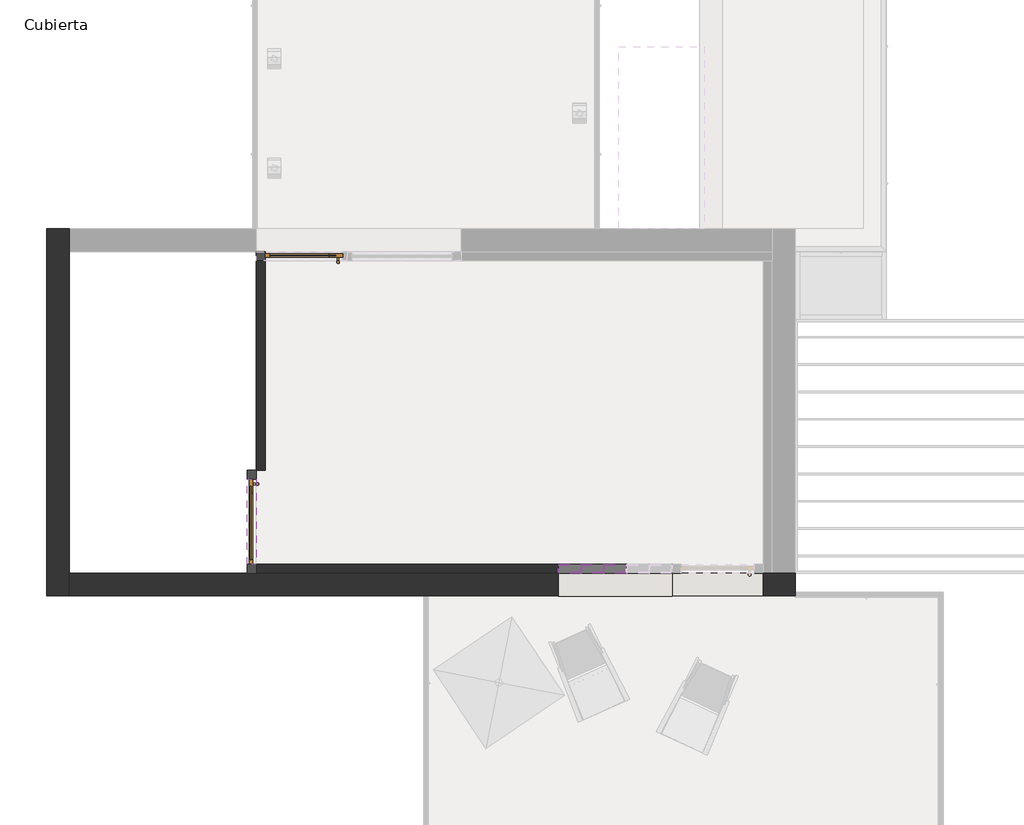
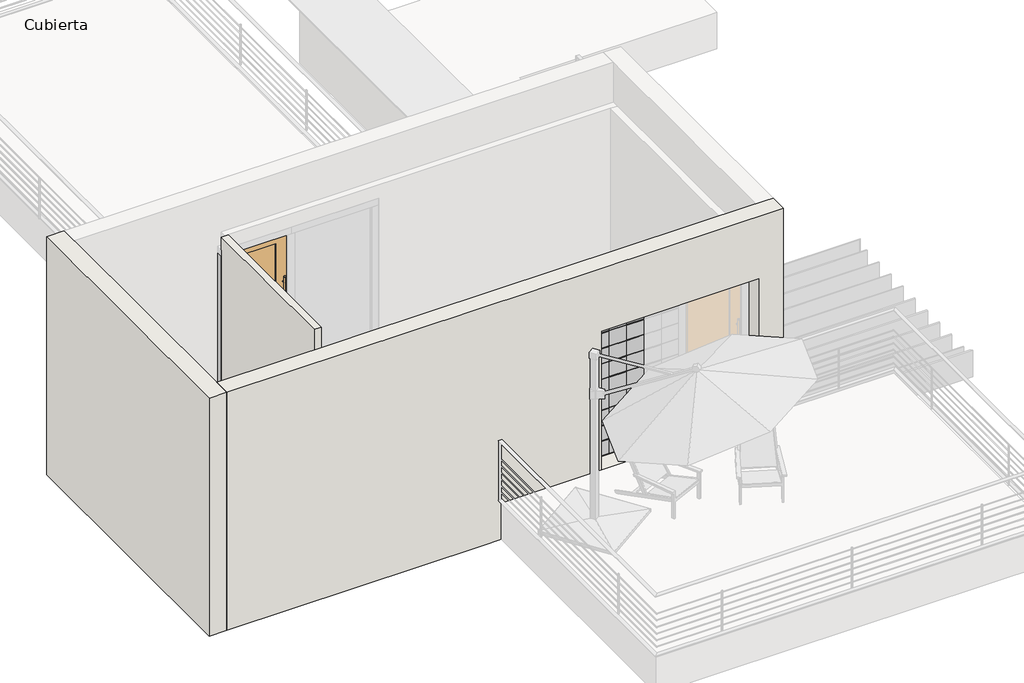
# One storey, part 1 of 3: 60 members, 27 plates, 4 walls, 2 doors.
"""IFC4 building model written with IfcOpenShell, lengths in millimetres."""

from ifc_helpers import new_model, si_unit, frame, origin, place, context, project, spatial, polyline, outline, extrude, faceted_brep, transform, mapped, element, save
from components import sgl_glass_1_sgl_glass_1_9855223e, sgl_glass_1_sgl_glass_1_6551031a, montante_rectangular_21ec1a72, montante_rectangular_2e25ec90, montante_rectangular_0f009ab3, montante_rectangular_e8e7f79d, montante_rectangular_223da8a3, montante_rectangular_ca48c89f, montante_rectangular_3748f694, montante_rectangular_44f377e7, montante_rectangular_montante_rectangular_10_x_10_cm_a0c0aff6, montante_rectangular_montante_rectangular_10_x_10_cm_1208ad8d, montante_rectangular_montante_rectangular_10_x_10_cm_fbaa0f1d, montante_rectangular_montante_rectangular_10_x_10_cm_fe9afc94, panel_de_sistema_efafee70, panel_de_sistema_3b4a4584, panel_de_sistema_f5b48c68, panel_de_sistema_02896438

model = new_model("IFC4")

# Units and contexts
model_context = context("Model", 3, world=origin())
ifc_project = project(units=[si_unit("LENGTHUNIT", "METRE", prefix="MILLI")], contexts=[model_context])

# Site, building, storey
site = spatial("IfcSite", under=ifc_project)
building = spatial("IfcBuilding", under=site)
storey = spatial("IfcBuildingStorey", under=building, Name="Cubierta", Elevation=6000.0)

# Doors
placement = place(None, origin())
sgl_glass_1_sgl_glass_1_shape = sgl_glass_1_sgl_glass_1_9855223e(model_context)
element("IfcDoor", 1, ObjectType="Sgl Glass (1) : Sgl Glass (1)", at=placement, inside=storey, context=model_context, shape_type="MappedRepresentation", body=[
    mapped(sgl_glass_1_sgl_glass_1_shape, transform((-4031.0601801, -7477.6669037, 6100.0), x_axis=(0.0, -1.0, 0.0), y_axis=(1.0, 0.0, 0.0), z_axis=(0.0, 0.0, 1.0))),
])
sgl_glass_1_sgl_glass_1_2_shape = sgl_glass_1_sgl_glass_1_6551031a(model_context)
element("IfcDoor", 2, ObjectType="Sgl Glass (1) : Sgl Glass (1)", at=placement, inside=storey, context=model_context, shape_type="MappedRepresentation", body=[
    mapped(sgl_glass_1_sgl_glass_1_2_shape, transform((-3456.0601801, -4562.6669037, 6250.0), x_axis=(-1.0, 0.0, 0.0), y_axis=(0.0, -1.0, 0.0), z_axis=(0.0, 0.0, 1.0))),
])

# Members
montante_rectangular_shape = montante_rectangular_21ec1a72(model_context)
element("IfcMember", 3, ObjectType="Montante rectangular : Junta de paves", at=placement, inside=storey, context=model_context, shape_type="MappedRepresentation", body=[
    mapped(montante_rectangular_shape, transform((-654.4649042, -7992.6669037, 8350.0), x_axis=(0.0, 0.0, 1.0), y_axis=(0.0, 1.0, 0.0), z_axis=(-1.0, 0.0, 0.0))),
])
montante_rectangular_2_shape = montante_rectangular_2e25ec90(model_context)
element("IfcMember", 4, ObjectType="Montante rectangular : Junta de paves", at=placement, inside=storey, context=model_context, shape_type="MappedRepresentation", body=[
    mapped(montante_rectangular_2_shape, transform((-419.4649042, -7992.6669037, 6250.0), x_axis=(0.0, 0.0, -1.0), y_axis=(0.0, 1.0, 0.0), z_axis=(1.0, 0.0, 0.0))),
])
montante_rectangular_3_shape = montante_rectangular_0f009ab3(model_context)
element("IfcMember", 5, ObjectType="Montante rectangular : Junta de paves", at=placement, inside=storey, context=model_context, shape_type="MappedRepresentation", body=[
    mapped(montante_rectangular_3_shape, transform((-654.4649042, -7992.6669037, 6483.3333333), x_axis=(0.0, 0.0, 1.0), y_axis=(0.0, 1.0, 0.0), z_axis=(-1.0, 0.0, 0.0))),
])
element("IfcMember", 6, ObjectType="Montante rectangular : Junta de paves", at=placement, inside=storey, context=model_context, shape_type="MappedRepresentation", body=[
    mapped(montante_rectangular_3_shape, transform((-654.4649042, -7992.6669037, 6716.6666667), x_axis=(0.0, 0.0, 1.0), y_axis=(0.0, 1.0, 0.0), z_axis=(-1.0, 0.0, 0.0))),
])
element("IfcMember", 7, ObjectType="Montante rectangular : Junta de paves", at=placement, inside=storey, context=model_context, shape_type="MappedRepresentation", body=[
    mapped(montante_rectangular_3_shape, transform((-654.4649042, -7992.6669037, 6950.0), x_axis=(0.0, 0.0, 1.0), y_axis=(0.0, 1.0, 0.0), z_axis=(-1.0, 0.0, 0.0))),
])
element("IfcMember", 8, ObjectType="Montante rectangular : Junta de paves", at=placement, inside=storey, context=model_context, shape_type="MappedRepresentation", body=[
    mapped(montante_rectangular_3_shape, transform((-654.4649042, -7992.6669037, 7183.3333333), x_axis=(0.0, 0.0, 1.0), y_axis=(0.0, 1.0, 0.0), z_axis=(-1.0, 0.0, 0.0))),
])
element("IfcMember", 9, ObjectType="Montante rectangular : Junta de paves", at=placement, inside=storey, context=model_context, shape_type="MappedRepresentation", body=[
    mapped(montante_rectangular_3_shape, transform((-654.4649042, -7992.6669037, 7416.6666667), x_axis=(0.0, 0.0, 1.0), y_axis=(0.0, 1.0, 0.0), z_axis=(-1.0, 0.0, 0.0))),
])
element("IfcMember", 10, ObjectType="Montante rectangular : Junta de paves", at=placement, inside=storey, context=model_context, shape_type="MappedRepresentation", body=[
    mapped(montante_rectangular_3_shape, transform((-654.4649042, -7992.6669037, 7650.0), x_axis=(0.0, 0.0, 1.0), y_axis=(0.0, 1.0, 0.0), z_axis=(-1.0, 0.0, 0.0))),
])
element("IfcMember", 11, ObjectType="Montante rectangular : Junta de paves", at=placement, inside=storey, context=model_context, shape_type="MappedRepresentation", body=[
    mapped(montante_rectangular_3_shape, transform((-654.4649042, -7992.6669037, 7883.3333333), x_axis=(0.0, 0.0, 1.0), y_axis=(0.0, 1.0, 0.0), z_axis=(-1.0, 0.0, 0.0))),
])
element("IfcMember", 12, ObjectType="Montante rectangular : Junta de paves", at=placement, inside=storey, context=model_context, shape_type="MappedRepresentation", body=[
    mapped(montante_rectangular_3_shape, transform((-654.4649042, -7992.6669037, 8116.6666667), x_axis=(0.0, 0.0, 1.0), y_axis=(0.0, 1.0, 0.0), z_axis=(-1.0, 0.0, 0.0))),
])
montante_rectangular_4_shape = montante_rectangular_e8e7f79d(model_context)
element("IfcMember", 13, ObjectType="Montante rectangular : Junta de paves", at=placement, inside=storey, context=model_context, shape_type="MappedRepresentation", body=[
    mapped(montante_rectangular_4_shape, transform((-169.4649042, -7992.6669037, 6250.0), x_axis=(0.0, 0.0, -1.0), y_axis=(0.0, 1.0, 0.0), z_axis=(1.0, 0.0, 0.0))),
])
montante_rectangular_5_shape = montante_rectangular_223da8a3(model_context)
element("IfcMember", 14, ObjectType="Montante rectangular : Junta de paves", at=placement, inside=storey, context=model_context, shape_type="MappedRepresentation", body=[
    mapped(montante_rectangular_5_shape, transform((-159.4649042, -7992.6669037, 6483.3333333), x_axis=(0.0, 0.0, 1.0), y_axis=(0.0, 1.0, 0.0), z_axis=(-1.0, 0.0, 0.0))),
])
element("IfcMember", 15, ObjectType="Montante rectangular : Junta de paves", at=placement, inside=storey, context=model_context, shape_type="MappedRepresentation", body=[
    mapped(montante_rectangular_5_shape, transform((-409.4649042, -7992.6669037, 6483.3333333), x_axis=(0.0, 0.0, 1.0), y_axis=(0.0, 1.0, 0.0), z_axis=(-1.0, 0.0, 0.0))),
])
element("IfcMember", 16, ObjectType="Montante rectangular : Junta de paves", at=placement, inside=storey, context=model_context, shape_type="MappedRepresentation", body=[
    mapped(montante_rectangular_5_shape, transform((-159.4649042, -7992.6669037, 6716.6666667), x_axis=(0.0, 0.0, 1.0), y_axis=(0.0, 1.0, 0.0), z_axis=(-1.0, 0.0, 0.0))),
])
element("IfcMember", 17, ObjectType="Montante rectangular : Junta de paves", at=placement, inside=storey, context=model_context, shape_type="MappedRepresentation", body=[
    mapped(montante_rectangular_5_shape, transform((-409.4649042, -7992.6669037, 6716.6666667), x_axis=(0.0, 0.0, 1.0), y_axis=(0.0, 1.0, 0.0), z_axis=(-1.0, 0.0, 0.0))),
])
element("IfcMember", 18, ObjectType="Montante rectangular : Junta de paves", at=placement, inside=storey, context=model_context, shape_type="MappedRepresentation", body=[
    mapped(montante_rectangular_5_shape, transform((-159.4649042, -7992.6669037, 6950.0), x_axis=(0.0, 0.0, 1.0), y_axis=(0.0, 1.0, 0.0), z_axis=(-1.0, 0.0, 0.0))),
])
element("IfcMember", 19, ObjectType="Montante rectangular : Junta de paves", at=placement, inside=storey, context=model_context, shape_type="MappedRepresentation", body=[
    mapped(montante_rectangular_5_shape, transform((-409.4649042, -7992.6669037, 6950.0), x_axis=(0.0, 0.0, 1.0), y_axis=(0.0, 1.0, 0.0), z_axis=(-1.0, 0.0, 0.0))),
])
element("IfcMember", 20, ObjectType="Montante rectangular : Junta de paves", at=placement, inside=storey, context=model_context, shape_type="MappedRepresentation", body=[
    mapped(montante_rectangular_5_shape, transform((-159.4649042, -7992.6669037, 7183.3333333), x_axis=(0.0, 0.0, 1.0), y_axis=(0.0, 1.0, 0.0), z_axis=(-1.0, 0.0, 0.0))),
])
element("IfcMember", 21, ObjectType="Montante rectangular : Junta de paves", at=placement, inside=storey, context=model_context, shape_type="MappedRepresentation", body=[
    mapped(montante_rectangular_5_shape, transform((-409.4649042, -7992.6669037, 7183.3333333), x_axis=(0.0, 0.0, 1.0), y_axis=(0.0, 1.0, 0.0), z_axis=(-1.0, 0.0, 0.0))),
])
element("IfcMember", 22, ObjectType="Montante rectangular : Junta de paves", at=placement, inside=storey, context=model_context, shape_type="MappedRepresentation", body=[
    mapped(montante_rectangular_5_shape, transform((-159.4649042, -7992.6669037, 7416.6666667), x_axis=(0.0, 0.0, 1.0), y_axis=(0.0, 1.0, 0.0), z_axis=(-1.0, 0.0, 0.0))),
])
element("IfcMember", 23, ObjectType="Montante rectangular : Junta de paves", at=placement, inside=storey, context=model_context, shape_type="MappedRepresentation", body=[
    mapped(montante_rectangular_5_shape, transform((-409.4649042, -7992.6669037, 7416.6666667), x_axis=(0.0, 0.0, 1.0), y_axis=(0.0, 1.0, 0.0), z_axis=(-1.0, 0.0, 0.0))),
])
element("IfcMember", 24, ObjectType="Montante rectangular : Junta de paves", at=placement, inside=storey, context=model_context, shape_type="MappedRepresentation", body=[
    mapped(montante_rectangular_5_shape, transform((-159.4649042, -7992.6669037, 7650.0), x_axis=(0.0, 0.0, 1.0), y_axis=(0.0, 1.0, 0.0), z_axis=(-1.0, 0.0, 0.0))),
])
element("IfcMember", 25, ObjectType="Montante rectangular : Junta de paves", at=placement, inside=storey, context=model_context, shape_type="MappedRepresentation", body=[
    mapped(montante_rectangular_5_shape, transform((-409.4649042, -7992.6669037, 7650.0), x_axis=(0.0, 0.0, 1.0), y_axis=(0.0, 1.0, 0.0), z_axis=(-1.0, 0.0, 0.0))),
])
element("IfcMember", 26, ObjectType="Montante rectangular : Junta de paves", at=placement, inside=storey, context=model_context, shape_type="MappedRepresentation", body=[
    mapped(montante_rectangular_5_shape, transform((-159.4649042, -7992.6669037, 7883.3333333), x_axis=(0.0, 0.0, 1.0), y_axis=(0.0, 1.0, 0.0), z_axis=(-1.0, 0.0, 0.0))),
])
element("IfcMember", 27, ObjectType="Montante rectangular : Junta de paves", at=placement, inside=storey, context=model_context, shape_type="MappedRepresentation", body=[
    mapped(montante_rectangular_5_shape, transform((-409.4649042, -7992.6669037, 7883.3333333), x_axis=(0.0, 0.0, 1.0), y_axis=(0.0, 1.0, 0.0), z_axis=(-1.0, 0.0, 0.0))),
])
element("IfcMember", 28, ObjectType="Montante rectangular : Junta de paves", at=placement, inside=storey, context=model_context, shape_type="MappedRepresentation", body=[
    mapped(montante_rectangular_5_shape, transform((-159.4649042, -7992.6669037, 8116.6666667), x_axis=(0.0, 0.0, 1.0), y_axis=(0.0, 1.0, 0.0), z_axis=(-1.0, 0.0, 0.0))),
])
element("IfcMember", 29, ObjectType="Montante rectangular : Junta de paves", at=placement, inside=storey, context=model_context, shape_type="MappedRepresentation", body=[
    mapped(montante_rectangular_5_shape, transform((-409.4649042, -7992.6669037, 8116.6666667), x_axis=(0.0, 0.0, 1.0), y_axis=(0.0, 1.0, 0.0), z_axis=(-1.0, 0.0, 0.0))),
])
montante_rectangular_6_shape = montante_rectangular_ca48c89f(model_context)
element("IfcMember", 30, ObjectType="Montante rectangular : Junta de paves", at=placement, inside=storey, context=model_context, shape_type="MappedRepresentation", body=[
    mapped(montante_rectangular_6_shape, transform((-159.4649042, -7992.6669037, 8350.0), x_axis=(0.0, 0.0, 1.0), y_axis=(0.0, 1.0, 0.0), z_axis=(-1.0, 0.0, 0.0))),
])
element("IfcMember", 31, ObjectType="Montante rectangular : Junta de paves", at=placement, inside=storey, context=model_context, shape_type="MappedRepresentation", body=[
    mapped(montante_rectangular_6_shape, transform((-409.4649042, -7992.6669037, 8350.0), x_axis=(0.0, 0.0, 1.0), y_axis=(0.0, 1.0, 0.0), z_axis=(-1.0, 0.0, 0.0))),
])
montante_rectangular_7_shape = montante_rectangular_3748f694(model_context)
element("IfcMember", 32, ObjectType="Montante rectangular : Junta de paves", at=placement, inside=storey, context=model_context, shape_type="MappedRepresentation", body=[
    mapped(montante_rectangular_7_shape, transform((-164.4649042, -7992.6669037, 6250.0), x_axis=(-1.0, 0.0, 0.0), y_axis=(0.0, 1.0, 0.0), z_axis=(0.0, 0.0, -1.0))),
])
element("IfcMember", 33, ObjectType="Montante rectangular : Junta de paves", at=placement, inside=storey, context=model_context, shape_type="MappedRepresentation", body=[
    mapped(montante_rectangular_7_shape, transform((-414.4649042, -7992.6669037, 6250.0), x_axis=(-1.0, 0.0, 0.0), y_axis=(0.0, 1.0, 0.0), z_axis=(0.0, 0.0, -1.0))),
])
element("IfcMember", 34, ObjectType="Montante rectangular : Junta de paves", at=placement, inside=storey, context=model_context, shape_type="MappedRepresentation", body=[
    mapped(montante_rectangular_7_shape, transform((-164.4649042, -7992.6669037, 6483.3333333), x_axis=(-1.0, 0.0, 0.0), y_axis=(0.0, 1.0, 0.0), z_axis=(0.0, 0.0, -1.0))),
])
element("IfcMember", 35, ObjectType="Montante rectangular : Junta de paves", at=placement, inside=storey, context=model_context, shape_type="MappedRepresentation", body=[
    mapped(montante_rectangular_7_shape, transform((-414.4649042, -7992.6669037, 6483.3333333), x_axis=(-1.0, 0.0, 0.0), y_axis=(0.0, 1.0, 0.0), z_axis=(0.0, 0.0, -1.0))),
])
element("IfcMember", 36, ObjectType="Montante rectangular : Junta de paves", at=placement, inside=storey, context=model_context, shape_type="MappedRepresentation", body=[
    mapped(montante_rectangular_7_shape, transform((-164.4649042, -7992.6669037, 6716.6666667), x_axis=(-1.0, 0.0, 0.0), y_axis=(0.0, 1.0, 0.0), z_axis=(0.0, 0.0, -1.0))),
])
element("IfcMember", 37, ObjectType="Montante rectangular : Junta de paves", at=placement, inside=storey, context=model_context, shape_type="MappedRepresentation", body=[
    mapped(montante_rectangular_7_shape, transform((-414.4649042, -7992.6669037, 6716.6666667), x_axis=(-1.0, 0.0, 0.0), y_axis=(0.0, 1.0, 0.0), z_axis=(0.0, 0.0, -1.0))),
])
element("IfcMember", 38, ObjectType="Montante rectangular : Junta de paves", at=placement, inside=storey, context=model_context, shape_type="MappedRepresentation", body=[
    mapped(montante_rectangular_7_shape, transform((-164.4649042, -7992.6669037, 6950.0), x_axis=(-1.0, 0.0, 0.0), y_axis=(0.0, 1.0, 0.0), z_axis=(0.0, 0.0, -1.0))),
])
element("IfcMember", 39, ObjectType="Montante rectangular : Junta de paves", at=placement, inside=storey, context=model_context, shape_type="MappedRepresentation", body=[
    mapped(montante_rectangular_7_shape, transform((-414.4649042, -7992.6669037, 6950.0), x_axis=(-1.0, 0.0, 0.0), y_axis=(0.0, 1.0, 0.0), z_axis=(0.0, 0.0, -1.0))),
])
element("IfcMember", 40, ObjectType="Montante rectangular : Junta de paves", at=placement, inside=storey, context=model_context, shape_type="MappedRepresentation", body=[
    mapped(montante_rectangular_7_shape, transform((-164.4649042, -7992.6669037, 7183.3333333), x_axis=(-1.0, 0.0, 0.0), y_axis=(0.0, 1.0, 0.0), z_axis=(0.0, 0.0, -1.0))),
])
element("IfcMember", 41, ObjectType="Montante rectangular : Junta de paves", at=placement, inside=storey, context=model_context, shape_type="MappedRepresentation", body=[
    mapped(montante_rectangular_7_shape, transform((-414.4649042, -7992.6669037, 7183.3333333), x_axis=(-1.0, 0.0, 0.0), y_axis=(0.0, 1.0, 0.0), z_axis=(0.0, 0.0, -1.0))),
])
element("IfcMember", 42, ObjectType="Montante rectangular : Junta de paves", at=placement, inside=storey, context=model_context, shape_type="MappedRepresentation", body=[
    mapped(montante_rectangular_7_shape, transform((-164.4649042, -7992.6669037, 7416.6666667), x_axis=(-1.0, 0.0, 0.0), y_axis=(0.0, 1.0, 0.0), z_axis=(0.0, 0.0, -1.0))),
])
element("IfcMember", 43, ObjectType="Montante rectangular : Junta de paves", at=placement, inside=storey, context=model_context, shape_type="MappedRepresentation", body=[
    mapped(montante_rectangular_7_shape, transform((-414.4649042, -7992.6669037, 7416.6666667), x_axis=(-1.0, 0.0, 0.0), y_axis=(0.0, 1.0, 0.0), z_axis=(0.0, 0.0, -1.0))),
])
element("IfcMember", 44, ObjectType="Montante rectangular : Junta de paves", at=placement, inside=storey, context=model_context, shape_type="MappedRepresentation", body=[
    mapped(montante_rectangular_7_shape, transform((-164.4649042, -7992.6669037, 7650.0), x_axis=(-1.0, 0.0, 0.0), y_axis=(0.0, 1.0, 0.0), z_axis=(0.0, 0.0, -1.0))),
])
element("IfcMember", 45, ObjectType="Montante rectangular : Junta de paves", at=placement, inside=storey, context=model_context, shape_type="MappedRepresentation", body=[
    mapped(montante_rectangular_7_shape, transform((-414.4649042, -7992.6669037, 7650.0), x_axis=(-1.0, 0.0, 0.0), y_axis=(0.0, 1.0, 0.0), z_axis=(0.0, 0.0, -1.0))),
])
element("IfcMember", 46, ObjectType="Montante rectangular : Junta de paves", at=placement, inside=storey, context=model_context, shape_type="MappedRepresentation", body=[
    mapped(montante_rectangular_7_shape, transform((-164.4649042, -7992.6669037, 7883.3333333), x_axis=(-1.0, 0.0, 0.0), y_axis=(0.0, 1.0, 0.0), z_axis=(0.0, 0.0, -1.0))),
])
element("IfcMember", 47, ObjectType="Montante rectangular : Junta de paves", at=placement, inside=storey, context=model_context, shape_type="MappedRepresentation", body=[
    mapped(montante_rectangular_7_shape, transform((-414.4649042, -7992.6669037, 7883.3333333), x_axis=(-1.0, 0.0, 0.0), y_axis=(0.0, 1.0, 0.0), z_axis=(0.0, 0.0, -1.0))),
])
element("IfcMember", 48, ObjectType="Montante rectangular : Junta de paves", at=placement, inside=storey, context=model_context, shape_type="MappedRepresentation", body=[
    mapped(montante_rectangular_7_shape, transform((-164.4649042, -7992.6669037, 8116.6666667), x_axis=(-1.0, 0.0, 0.0), y_axis=(0.0, 1.0, 0.0), z_axis=(0.0, 0.0, -1.0))),
])
element("IfcMember", 49, ObjectType="Montante rectangular : Junta de paves", at=placement, inside=storey, context=model_context, shape_type="MappedRepresentation", body=[
    mapped(montante_rectangular_7_shape, transform((-414.4649042, -7992.6669037, 8116.6666667), x_axis=(-1.0, 0.0, 0.0), y_axis=(0.0, 1.0, 0.0), z_axis=(0.0, 0.0, -1.0))),
])
montante_rectangular_8_shape = montante_rectangular_44f377e7(model_context)
element("IfcMember", 50, ObjectType="Montante rectangular : Junta de paves", at=placement, inside=storey, context=model_context, shape_type="MappedRepresentation", body=[
    mapped(montante_rectangular_8_shape, transform((-664.4649042, -7992.6669037, 6250.0), x_axis=(-1.0, 0.0, 0.0), y_axis=(0.0, 1.0, 0.0), z_axis=(0.0, 0.0, -1.0))),
])
element("IfcMember", 51, ObjectType="Montante rectangular : Junta de paves", at=placement, inside=storey, context=model_context, shape_type="MappedRepresentation", body=[
    mapped(montante_rectangular_8_shape, transform((-664.4649042, -7992.6669037, 6483.3333333), x_axis=(-1.0, 0.0, 0.0), y_axis=(0.0, 1.0, 0.0), z_axis=(0.0, 0.0, -1.0))),
])
element("IfcMember", 52, ObjectType="Montante rectangular : Junta de paves", at=placement, inside=storey, context=model_context, shape_type="MappedRepresentation", body=[
    mapped(montante_rectangular_8_shape, transform((-664.4649042, -7992.6669037, 6716.6666667), x_axis=(-1.0, 0.0, 0.0), y_axis=(0.0, 1.0, 0.0), z_axis=(0.0, 0.0, -1.0))),
])
element("IfcMember", 53, ObjectType="Montante rectangular : Junta de paves", at=placement, inside=storey, context=model_context, shape_type="MappedRepresentation", body=[
    mapped(montante_rectangular_8_shape, transform((-664.4649042, -7992.6669037, 6950.0), x_axis=(-1.0, 0.0, 0.0), y_axis=(0.0, 1.0, 0.0), z_axis=(0.0, 0.0, -1.0))),
])
element("IfcMember", 54, ObjectType="Montante rectangular : Junta de paves", at=placement, inside=storey, context=model_context, shape_type="MappedRepresentation", body=[
    mapped(montante_rectangular_8_shape, transform((-664.4649042, -7992.6669037, 7183.3333333), x_axis=(-1.0, 0.0, 0.0), y_axis=(0.0, 1.0, 0.0), z_axis=(0.0, 0.0, -1.0))),
])
element("IfcMember", 55, ObjectType="Montante rectangular : Junta de paves", at=placement, inside=storey, context=model_context, shape_type="MappedRepresentation", body=[
    mapped(montante_rectangular_8_shape, transform((-664.4649042, -7992.6669037, 7416.6666667), x_axis=(-1.0, 0.0, 0.0), y_axis=(0.0, 1.0, 0.0), z_axis=(0.0, 0.0, -1.0))),
])
element("IfcMember", 56, ObjectType="Montante rectangular : Junta de paves", at=placement, inside=storey, context=model_context, shape_type="MappedRepresentation", body=[
    mapped(montante_rectangular_8_shape, transform((-664.4649042, -7992.6669037, 7650.0), x_axis=(-1.0, 0.0, 0.0), y_axis=(0.0, 1.0, 0.0), z_axis=(0.0, 0.0, -1.0))),
])
element("IfcMember", 57, ObjectType="Montante rectangular : Junta de paves", at=placement, inside=storey, context=model_context, shape_type="MappedRepresentation", body=[
    mapped(montante_rectangular_8_shape, transform((-664.4649042, -7992.6669037, 7883.3333333), x_axis=(-1.0, 0.0, 0.0), y_axis=(0.0, 1.0, 0.0), z_axis=(0.0, 0.0, -1.0))),
])
element("IfcMember", 58, ObjectType="Montante rectangular : Junta de paves", at=placement, inside=storey, context=model_context, shape_type="MappedRepresentation", body=[
    mapped(montante_rectangular_8_shape, transform((-664.4649042, -7992.6669037, 8116.6666667), x_axis=(-1.0, 0.0, 0.0), y_axis=(0.0, 1.0, 0.0), z_axis=(0.0, 0.0, -1.0))),
])
montante_rectangular_montante_rectangular_10_x_10_cm_shape = montante_rectangular_montante_rectangular_10_x_10_cm_a0c0aff6(model_context)
element("IfcMember", 59, ObjectType="Montante rectangular : Montante rectangular - 10 x 10 cm", at=placement, inside=storey, context=model_context, shape_type="MappedRepresentation", body=[
    mapped(montante_rectangular_montante_rectangular_10_x_10_cm_shape, transform((-4031.0601801, -7942.6669037, 8350.0), x_axis=(0.0, 0.0, 1.0), y_axis=(-1.0, 0.0, 0.0), z_axis=(0.0, -1.0, 0.0))),
])
montante_rectangular_montante_rectangular_10_x_10_cm_2_shape = montante_rectangular_montante_rectangular_10_x_10_cm_1208ad8d(model_context)
element("IfcMember", 60, ObjectType="Montante rectangular : Montante rectangular - 10 x 10 cm", at=placement, inside=storey, context=model_context, shape_type="MappedRepresentation", body=[
    mapped(montante_rectangular_montante_rectangular_10_x_10_cm_2_shape, transform((-4031.0601801, -8042.6669037, 6100.0), x_axis=(0.0, -1.0, 0.0), y_axis=(-1.0, 0.0, 0.0), z_axis=(0.0, 0.0, -1.0))),
])
montante_rectangular_montante_rectangular_10_x_10_cm_3_shape = montante_rectangular_montante_rectangular_10_x_10_cm_fbaa0f1d(model_context)
element("IfcMember", 61, ObjectType="Montante rectangular : Montante rectangular - 10 x 10 cm", at=placement, inside=storey, context=model_context, shape_type="MappedRepresentation", body=[
    mapped(montante_rectangular_montante_rectangular_10_x_10_cm_3_shape, transform((-4031.0601801, -6912.6669037, 8350.0), x_axis=(0.0, 1.0, 0.0), y_axis=(-1.0, 0.0, 0.0), z_axis=(0.0, 0.0, 1.0))),
])
montante_rectangular_montante_rectangular_10_x_10_cm_4_shape = montante_rectangular_montante_rectangular_10_x_10_cm_fe9afc94(model_context)
element("IfcMember", 62, ObjectType="Montante rectangular : Montante rectangular - 10 x 10 cm", at=placement, inside=storey, context=model_context, shape_type="MappedRepresentation", body=[
    mapped(montante_rectangular_montante_rectangular_10_x_10_cm_4_shape, transform((-3981.0601801, -4562.6669037, 8400.0), x_axis=(-1.0, 0.0, 0.0), y_axis=(0.0, -1.0, 0.0), z_axis=(0.0, 0.0, 1.0))),
])

# Plates
panel_de_sistema_shape = panel_de_sistema_efafee70(model_context)
element("IfcPlate", 63, ObjectType="Panel de sistema : PAVES", at=placement, inside=storey, context=model_context, shape_type="MappedRepresentation", body=[
    mapped(panel_de_sistema_shape, transform((-536.9649042, -7992.6669037, 6260.0), x_axis=(-1.0, 0.0, 0.0), y_axis=(0.0, -1.0, 0.0), z_axis=(0.0, 0.0, 1.0))),
])
element("IfcPlate", 64, ObjectType="Panel de sistema : PAVES", at=placement, inside=storey, context=model_context, shape_type="MappedRepresentation", body=[
    mapped(panel_de_sistema_shape, transform((-536.9649042, -7992.6669037, 8121.6666667), x_axis=(-1.0, 0.0, 0.0), y_axis=(0.0, -1.0, 0.0), z_axis=(0.0, 0.0, 1.0))),
])
panel_de_sistema_2_shape = panel_de_sistema_3b4a4584(model_context)
element("IfcPlate", 65, ObjectType="Panel de sistema : PAVES", at=placement, inside=storey, context=model_context, shape_type="MappedRepresentation", body=[
    mapped(panel_de_sistema_2_shape, transform((-39.4649042, -7992.6669037, 6260.0), x_axis=(-1.0, 0.0, 0.0), y_axis=(0.0, -1.0, 0.0), z_axis=(0.0, 0.0, 1.0))),
])
element("IfcPlate", 66, ObjectType="Panel de sistema : PAVES", at=placement, inside=storey, context=model_context, shape_type="MappedRepresentation", body=[
    mapped(panel_de_sistema_2_shape, transform((-289.4649042, -7992.6669037, 6260.0), x_axis=(-1.0, 0.0, 0.0), y_axis=(0.0, -1.0, 0.0), z_axis=(0.0, 0.0, 1.0))),
])
element("IfcPlate", 67, ObjectType="Panel de sistema : PAVES", at=placement, inside=storey, context=model_context, shape_type="MappedRepresentation", body=[
    mapped(panel_de_sistema_2_shape, transform((-39.4649042, -7992.6669037, 8121.6666667), x_axis=(-1.0, 0.0, 0.0), y_axis=(0.0, -1.0, 0.0), z_axis=(0.0, 0.0, 1.0))),
])
element("IfcPlate", 68, ObjectType="Panel de sistema : PAVES", at=placement, inside=storey, context=model_context, shape_type="MappedRepresentation", body=[
    mapped(panel_de_sistema_2_shape, transform((-289.4649042, -7992.6669037, 8121.6666667), x_axis=(-1.0, 0.0, 0.0), y_axis=(0.0, -1.0, 0.0), z_axis=(0.0, 0.0, 1.0))),
])
panel_de_sistema_3_shape = panel_de_sistema_f5b48c68(model_context)
element("IfcPlate", 69, ObjectType="Panel de sistema : PAVES", at=placement, inside=storey, context=model_context, shape_type="MappedRepresentation", body=[
    mapped(panel_de_sistema_3_shape, transform((-536.9649042, -7992.6669037, 6488.3333333), x_axis=(-1.0, 0.0, 0.0), y_axis=(0.0, -1.0, 0.0), z_axis=(0.0, 0.0, 1.0))),
])
element("IfcPlate", 70, ObjectType="Panel de sistema : PAVES", at=placement, inside=storey, context=model_context, shape_type="MappedRepresentation", body=[
    mapped(panel_de_sistema_3_shape, transform((-536.9649042, -7992.6669037, 6721.6666667), x_axis=(-1.0, 0.0, 0.0), y_axis=(0.0, -1.0, 0.0), z_axis=(0.0, 0.0, 1.0))),
])
element("IfcPlate", 71, ObjectType="Panel de sistema : PAVES", at=placement, inside=storey, context=model_context, shape_type="MappedRepresentation", body=[
    mapped(panel_de_sistema_3_shape, transform((-536.9649042, -7992.6669037, 6955.0), x_axis=(-1.0, 0.0, 0.0), y_axis=(0.0, -1.0, 0.0), z_axis=(0.0, 0.0, 1.0))),
])
element("IfcPlate", 72, ObjectType="Panel de sistema : PAVES", at=placement, inside=storey, context=model_context, shape_type="MappedRepresentation", body=[
    mapped(panel_de_sistema_3_shape, transform((-536.9649042, -7992.6669037, 7188.3333333), x_axis=(-1.0, 0.0, 0.0), y_axis=(0.0, -1.0, 0.0), z_axis=(0.0, 0.0, 1.0))),
])
element("IfcPlate", 73, ObjectType="Panel de sistema : PAVES", at=placement, inside=storey, context=model_context, shape_type="MappedRepresentation", body=[
    mapped(panel_de_sistema_3_shape, transform((-536.9649042, -7992.6669037, 7421.6666667), x_axis=(-1.0, 0.0, 0.0), y_axis=(0.0, -1.0, 0.0), z_axis=(0.0, 0.0, 1.0))),
])
element("IfcPlate", 74, ObjectType="Panel de sistema : PAVES", at=placement, inside=storey, context=model_context, shape_type="MappedRepresentation", body=[
    mapped(panel_de_sistema_3_shape, transform((-536.9649042, -7992.6669037, 7655.0), x_axis=(-1.0, 0.0, 0.0), y_axis=(0.0, -1.0, 0.0), z_axis=(0.0, 0.0, 1.0))),
])
element("IfcPlate", 75, ObjectType="Panel de sistema : PAVES", at=placement, inside=storey, context=model_context, shape_type="MappedRepresentation", body=[
    mapped(panel_de_sistema_3_shape, transform((-536.9649042, -7992.6669037, 7888.3333333), x_axis=(-1.0, 0.0, 0.0), y_axis=(0.0, -1.0, 0.0), z_axis=(0.0, 0.0, 1.0))),
])
panel_de_sistema_4_shape = panel_de_sistema_02896438(model_context)
element("IfcPlate", 76, ObjectType="Panel de sistema : PAVES", at=placement, inside=storey, context=model_context, shape_type="MappedRepresentation", body=[
    mapped(panel_de_sistema_4_shape, transform((-39.4649042, -7992.6669037, 6488.3333333), x_axis=(-1.0, 0.0, 0.0), y_axis=(0.0, -1.0, 0.0), z_axis=(0.0, 0.0, 1.0))),
])
element("IfcPlate", 77, ObjectType="Panel de sistema : PAVES", at=placement, inside=storey, context=model_context, shape_type="MappedRepresentation", body=[
    mapped(panel_de_sistema_4_shape, transform((-289.4649042, -7992.6669037, 6488.3333333), x_axis=(-1.0, 0.0, 0.0), y_axis=(0.0, -1.0, 0.0), z_axis=(0.0, 0.0, 1.0))),
])
element("IfcPlate", 78, ObjectType="Panel de sistema : PAVES", at=placement, inside=storey, context=model_context, shape_type="MappedRepresentation", body=[
    mapped(panel_de_sistema_4_shape, transform((-39.4649042, -7992.6669037, 6721.6666667), x_axis=(-1.0, 0.0, 0.0), y_axis=(0.0, -1.0, 0.0), z_axis=(0.0, 0.0, 1.0))),
])
element("IfcPlate", 79, ObjectType="Panel de sistema : PAVES", at=placement, inside=storey, context=model_context, shape_type="MappedRepresentation", body=[
    mapped(panel_de_sistema_4_shape, transform((-289.4649042, -7992.6669037, 6721.6666667), x_axis=(-1.0, 0.0, 0.0), y_axis=(0.0, -1.0, 0.0), z_axis=(0.0, 0.0, 1.0))),
])
element("IfcPlate", 80, ObjectType="Panel de sistema : PAVES", at=placement, inside=storey, context=model_context, shape_type="MappedRepresentation", body=[
    mapped(panel_de_sistema_4_shape, transform((-39.4649042, -7992.6669037, 6955.0), x_axis=(-1.0, 0.0, 0.0), y_axis=(0.0, -1.0, 0.0), z_axis=(0.0, 0.0, 1.0))),
])
element("IfcPlate", 81, ObjectType="Panel de sistema : PAVES", at=placement, inside=storey, context=model_context, shape_type="MappedRepresentation", body=[
    mapped(panel_de_sistema_4_shape, transform((-289.4649042, -7992.6669037, 6955.0), x_axis=(-1.0, 0.0, 0.0), y_axis=(0.0, -1.0, 0.0), z_axis=(0.0, 0.0, 1.0))),
])
element("IfcPlate", 82, ObjectType="Panel de sistema : PAVES", at=placement, inside=storey, context=model_context, shape_type="MappedRepresentation", body=[
    mapped(panel_de_sistema_4_shape, transform((-39.4649042, -7992.6669037, 7188.3333333), x_axis=(-1.0, 0.0, 0.0), y_axis=(0.0, -1.0, 0.0), z_axis=(0.0, 0.0, 1.0))),
])
element("IfcPlate", 83, ObjectType="Panel de sistema : PAVES", at=placement, inside=storey, context=model_context, shape_type="MappedRepresentation", body=[
    mapped(panel_de_sistema_4_shape, transform((-289.4649042, -7992.6669037, 7188.3333333), x_axis=(-1.0, 0.0, 0.0), y_axis=(0.0, -1.0, 0.0), z_axis=(0.0, 0.0, 1.0))),
])
element("IfcPlate", 84, ObjectType="Panel de sistema : PAVES", at=placement, inside=storey, context=model_context, shape_type="MappedRepresentation", body=[
    mapped(panel_de_sistema_4_shape, transform((-39.4649042, -7992.6669037, 7421.6666667), x_axis=(-1.0, 0.0, 0.0), y_axis=(0.0, -1.0, 0.0), z_axis=(0.0, 0.0, 1.0))),
])
element("IfcPlate", 85, ObjectType="Panel de sistema : PAVES", at=placement, inside=storey, context=model_context, shape_type="MappedRepresentation", body=[
    mapped(panel_de_sistema_4_shape, transform((-289.4649042, -7992.6669037, 7421.6666667), x_axis=(-1.0, 0.0, 0.0), y_axis=(0.0, -1.0, 0.0), z_axis=(0.0, 0.0, 1.0))),
])
element("IfcPlate", 86, ObjectType="Panel de sistema : PAVES", at=placement, inside=storey, context=model_context, shape_type="MappedRepresentation", body=[
    mapped(panel_de_sistema_4_shape, transform((-39.4649042, -7992.6669037, 7655.0), x_axis=(-1.0, 0.0, 0.0), y_axis=(0.0, -1.0, 0.0), z_axis=(0.0, 0.0, 1.0))),
])
element("IfcPlate", 87, ObjectType="Panel de sistema : PAVES", at=placement, inside=storey, context=model_context, shape_type="MappedRepresentation", body=[
    mapped(panel_de_sistema_4_shape, transform((-289.4649042, -7992.6669037, 7655.0), x_axis=(-1.0, 0.0, 0.0), y_axis=(0.0, -1.0, 0.0), z_axis=(0.0, 0.0, 1.0))),
])
element("IfcPlate", 88, ObjectType="Panel de sistema : PAVES", at=placement, inside=storey, context=model_context, shape_type="MappedRepresentation", body=[
    mapped(panel_de_sistema_4_shape, transform((-39.4649042, -7992.6669037, 7888.3333333), x_axis=(-1.0, 0.0, 0.0), y_axis=(0.0, -1.0, 0.0), z_axis=(0.0, 0.0, 1.0))),
])
element("IfcPlate", 89, ObjectType="Panel de sistema : PAVES", at=placement, inside=storey, context=model_context, shape_type="MappedRepresentation", body=[
    mapped(panel_de_sistema_4_shape, transform((-289.4649042, -7992.6669037, 7888.3333333), x_axis=(-1.0, 0.0, 0.0), y_axis=(0.0, -1.0, 0.0), z_axis=(0.0, 0.0, 1.0))),
])

# Walls
element("IfcWall", 90, ObjectType="Hormigón - 25 cm", at=placement, inside=storey, context=model_context, shape_type="Brep", body=[
    faceted_brep([(-6281.0601801, -4262.6669037, 5700.0), (-6281.0601801, -8292.6669037, 5700.0), (-6281.0601801, -8292.6669037, 9300.0), (-6281.0601801, -4262.6669037, 9300.0), (-6031.0601801, -4262.6669037, 5700.0), (-6031.0601801, -4262.6669037, 9300.0), (-6031.0601801, -4512.6669037, 9300.0), (-6031.0601801, -8042.6669037, 9300.0), (-6031.0601801, -8292.6669037, 9300.0), (-6031.0601801, -8292.6669037, 5700.0), (-6031.0601801, -8042.6669037, 5700.0), (-6031.0601801, -4512.6669037, 5700.0)], [[[0, 1, 2, 3]], [[4, 5, 6, 7, 8, 9, 10, 11]], [[1, 0, 4, 11, 10, 9]], [[3, 2, 8, 7, 6, 5]], [[2, 1, 9, 8]], [[0, 3, 5, 4]]]),
])
element("IfcWall", 91, ObjectType="Hormigón - 25 cm", at=placement, inside=storey, context=model_context, shape_type="Brep", body=[
    faceted_brep([(-6031.0601801, -8292.6669037, 5700.0), (-2353.1025942, -8292.6669037, 5700.0), (-2103.1025942, -8292.6669037, 5700.0), (1685.5350958, -8292.6669037, 5700.0), (1935.5350958, -8292.6669037, 5700.0), (1935.5350958, -8292.6669037, 6300.0), (1935.5350958, -8292.6669037, 9300.0), (-6031.0601801, -8292.6669037, 9300.0), (-664.4649042, -8292.6669037, 8350.0), (1585.5350958, -8292.6669037, 8350.0), (1585.5350958, -8292.6669037, 6100.0), (585.5350958, -8292.6669037, 6100.0), (585.5350958, -8292.6669037, 6250.0), (-664.4649042, -8292.6669037, 6250.0), (1935.5350958, -8042.6669037, 5700.0), (1685.5350958, -8042.6669037, 5700.0), (-2103.1025942, -8042.6669037, 5700.0), (-2353.1025942, -8042.6669037, 5700.0), (-3981.0601801, -8042.6669037, 5700.0), (-4231.0601801, -8042.6669037, 5700.0), (-6031.0601801, -8042.6669037, 5700.0), (-6031.0601801, -8042.6669037, 9300.0), (-4231.0601801, -8042.6669037, 9300.0), (-3981.0601801, -8042.6669037, 9300.0), (1685.5350958, -8042.6669037, 9300.0), (1935.5350958, -8042.6669037, 9300.0), (1935.5350958, -8042.6669037, 6300.0), (1585.5350958, -8042.6669037, 8350.0), (-664.4649042, -8042.6669037, 8350.0), (-664.4649042, -8042.6669037, 6250.0), (585.5350958, -8042.6669037, 6250.0), (585.5350958, -8042.6669037, 6100.0), (1585.5350958, -8042.6669037, 6100.0)], [[[0, 1, 2, 3, 4, 5, 6, 7], [8, 9, 10, 11, 12, 13]], [[14, 15, 16, 17, 18, 19, 20, 21, 22, 23, 24, 25, 26], [27, 28, 29, 30, 31, 32]], [[4, 3, 2, 1, 0, 20, 19, 18, 17, 16, 15, 14]], [[7, 6, 25, 24, 23, 22, 21]], [[0, 7, 21, 20]], [[4, 14, 26, 25, 6, 5]], [[8, 28, 27, 9]], [[28, 8, 13, 29]], [[29, 13, 12, 30]], [[32, 10, 9, 27]], [[11, 31, 30, 12]], [[10, 32, 31, 11]]]),
])
element("IfcWall", 92, ObjectType="Trasdosado de placa de yeso laminando", at=placement, inside=storey, context=model_context, shape_type="Brep", body=[
    faceted_brep([(-3981.0601801, -6912.6669037, 8700.0), (-3981.0601801, -4612.6669037, 8700.0), (-3981.0601801, -4612.6669037, 6100.0), (-3981.0601801, -6912.6669037, 6100.0), (-3981.0601801, -6912.6669037, 8350.0), (-3881.0601801, -4612.6669037, 8700.0), (-3881.0601801, -6912.6669037, 8700.0), (-3881.0601801, -6912.6669037, 6100.0), (-3881.0601801, -4612.6669037, 6100.0)], [[[0, 1, 2, 3, 4]], [[5, 6, 7, 8]], [[6, 0, 4, 3, 7]], [[1, 0, 6, 5]], [[1, 5, 8, 2]], [[3, 2, 8, 7]]]),
])
element("IfcWall", 93, ObjectType="Trasdosado de placa de yeso laminando", at=placement, inside=storey, context=model_context, shape_type="SweptSolid", body=[
    extrude(outline(polyline([(8700.0, 1585.5350958), (8700.0, -3981.0601801), (6100.0, -3981.0601801), (6100.0, 585.5350958), (6250.0, 585.5350958), (6250.0, -664.4649042), (8350.0, -664.4649042), (8350.0, 1585.5350958), (8700.0, 1585.5350958)])), frame((0.0, -8042.6669037, 0.0), z_axis=(0.0, 1.0, 0.0), x_axis=(0.0, 0.0, 1.0)), (0.0, 0.0, 1.0), 100.0),
])

save(model, "model.ifc")
